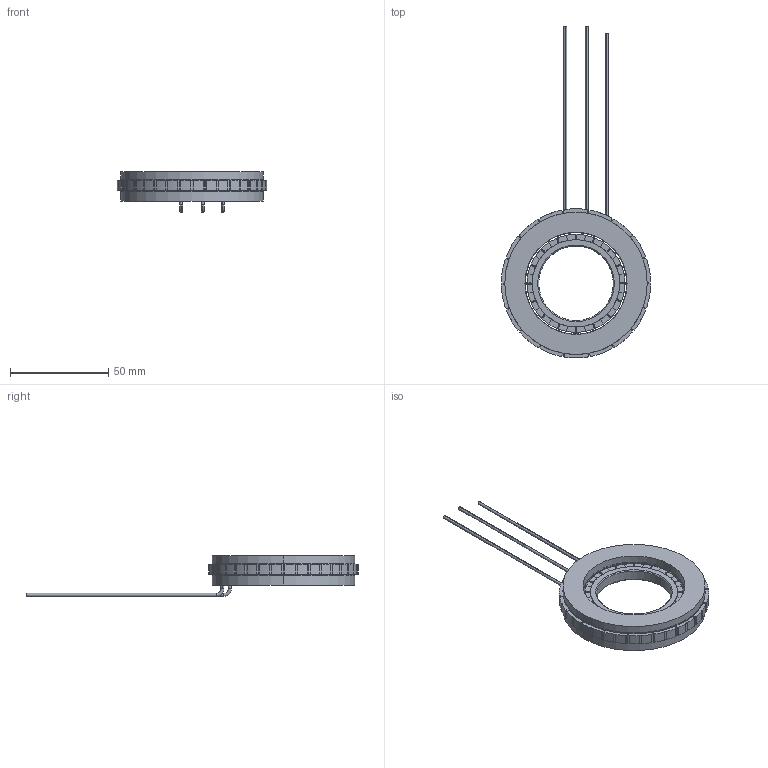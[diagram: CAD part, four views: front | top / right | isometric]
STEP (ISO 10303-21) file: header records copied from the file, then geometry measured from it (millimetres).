
FILE_DESCRIPTION (( 'STEP AP203' ), '1' );
FILE_NAME ('307090731SS 无框力矩电机（FMC07605-0012-3038N-8DS00）-V1.0.STEP', '2024-04-28T00:55:34', ( 'muse' ), ( 'muse' ), 'SwSTEP 2.0', 'SolidWorks 2023', '' );
FILE_SCHEMA (( 'CONFIG_CONTROL_DESIGN' ));
Length unit declared in the file: millimetre
Products named in the file (28): 10108010287 定子铁芯（77L5-18Z(B35A300)含骨架）; 10108060631 磁钢（77L6-16P-N40SH（S极））; 复件 10212020238 电源线（AWM1332-20AWG 紫）^207012533 定子总成（77L5-1X0.44-80匝-2-16P星型）-V1.0; 307090731SS 无框力矩电机（FMC07605-0012-3038N-8DS00）-V1.0; 复件 10212020237 电源线（AWM1332-20AWG 蓝）^207012533 定子总成（77L5-1X0.44-80匝-2-16P星型）-V1.0; 复件 10212020236 电源线（AWM1332-20AWG 棕）^207012533 定子总成（77L5-1X0.44-80匝-2-16P星型）-V1.0; 207042422 转子（FMC07605-0012-3038N-8DS00）-V1.0; 10108060630 磁钢（77L6-16P-N40SH（N极））; 207012533 定子总成（77L5-1X0.44-80匝-2-16P星型）-V1.0; 10108040245 转子铁芯（77L6-16P(40Cr电镀)）-V1.0; 复件 10212010018 漆包线（QZY-2180  0.44 GB6109.5-88）^207012533 定子总成（77L5-1X0.44-80匝-2-16P星型）-V1.0
Assembly tree (41 placements, depth 3):
  307090731SS 无框力矩电机（FMC07605-0012-3038N-8DS00）-V1.0
    207042422 转子（FMC07605-0012-3038N-8DS00）-V1.0
      10108060630 磁钢（77L6-16P-N40SH（N极））  x8
      10108060631 磁钢（77L6-16P-N40SH（S极））  x8
      10108040245 转子铁芯（77L6-16P(40Cr电镀)）-V1.0
    207012533 定子总成（77L5-1X0.44-80匝-2-16P星型）-V1.0
      10108010287 定子铁芯（77L5-18Z(B35A300)含骨架）
      10108010287 定子铁芯（77L5-18Z(B35A300)含骨架）
      10108010287 定子铁芯（77L5-18Z(B35A300)含骨架）
      10108010287 定子铁芯（77L5-18Z(B35A300)含骨架）
      10108010287 定子铁芯（77L5-18Z(B35A300)含骨架）
      10108010287 定子铁芯（77L5-18Z(B35A300)含骨架）
      10108010287 定子铁芯（77L5-18Z(B35A300)含骨架）
      10108010287 定子铁芯（77L5-18Z(B35A300)含骨架）
      10108010287 定子铁芯（77L5-18Z(B35A300)含骨架）
      10108010287 定子铁芯（77L5-18Z(B35A300)含骨架）
      10108010287 定子铁芯（77L5-18Z(B35A300)含骨架）
      10108010287 定子铁芯（77L5-18Z(B35A300)含骨架）
      10108010287 定子铁芯（77L5-18Z(B35A300)含骨架）
      10108010287 定子铁芯（77L5-18Z(B35A300)含骨架）
      10108010287 定子铁芯（77L5-18Z(B35A300)含骨架）
      10108010287 定子铁芯（77L5-18Z(B35A300)含骨架）
      10108010287 定子铁芯（77L5-18Z(B35A300)含骨架）
      10108010287 定子铁芯（77L5-18Z(B35A300)含骨架）
      复件 10212010018 漆包线（QZY-2180  0.44 GB6109.5-88）^207012533 定子总成（77L5-1X0.44-80匝-2-16P星型）-V1.0
      复件 10212020236 电源线（AWM1332-20AWG 棕）^207012533 定子总成（77L5-1X0.44-80匝-2-16P星型）-V1.0
      复件 10212020237 电源线（AWM1332-20AWG 蓝）^207012533 定子总成（77L5-1X0.44-80匝-2-16P星型）-V1.0
      复件 10212020238 电源线（AWM1332-20AWG 紫）^207012533 定子总成（77L5-1X0.44-80匝-2-16P星型）-V1.0
Bounding box: 75.98 x 169.02 x 20.78 mm (x, y, z)
Volume: 33039.1 mm3; surface area: 28064.4 mm2
Topology: 40 solids, 40 shells, 1786 faces, 4890 edges, 3232 vertices
Faces by surface type: plane 992, bspline 496, cylinder 288, torus 6, cone 4
Entity records: 34272 total; most frequent: CARTESIAN_POINT 9174, ORIENTED_EDGE 4656, DIRECTION 4368, EDGE_CURVE 2328, VECTOR 1660, LINE 1660, VERTEX_POINT 1524, AXIS2_PLACEMENT_3D 1354
